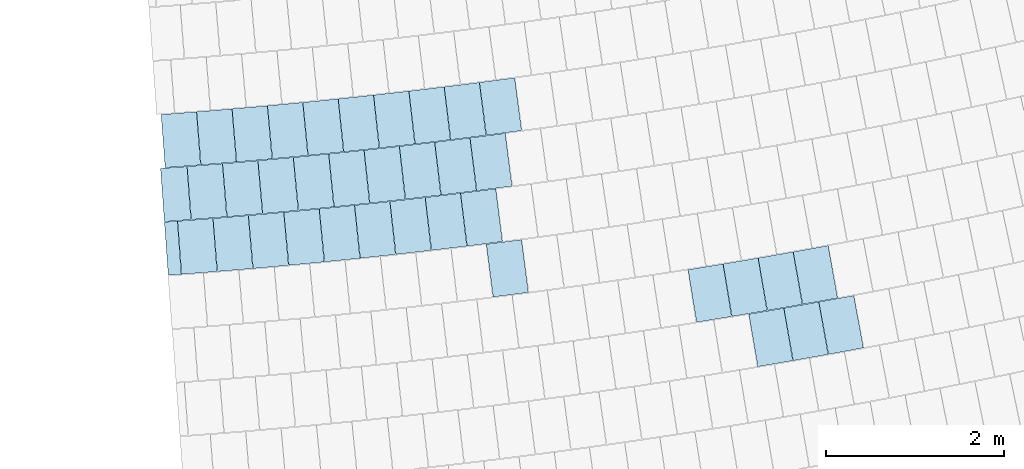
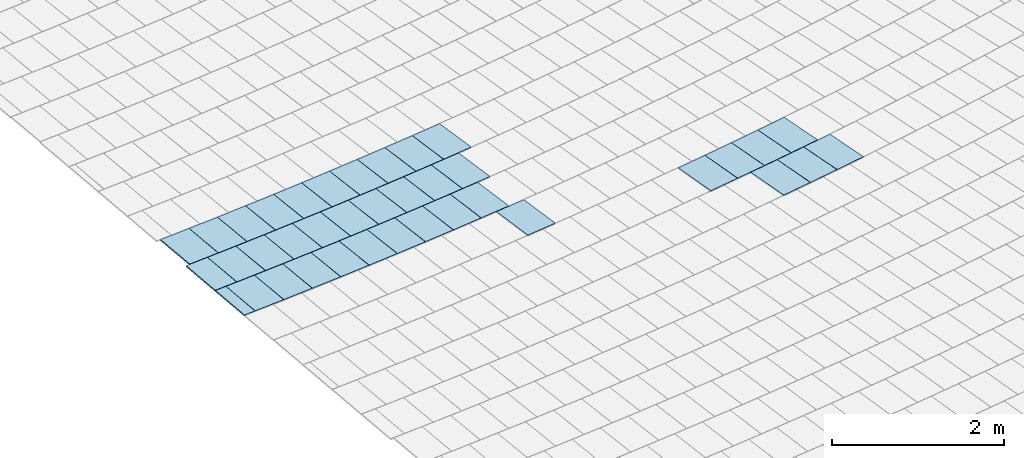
# One storey, part 43 of 438: 38 slabs.
"""IFC2X3 building model written with IfcOpenShell, lengths in millimetres."""

from ifc_helpers import new_model, entity, si_unit, converted_unit, derived_unit, direction, frame, origin, origin_2d_with_axis, place, context, subcontext, project, spatial, polyline, rectangle, outline, extrude, material, layer, layer_set, layer_usage, type_object, element, save


model = new_model("IFC2X3")

# Units and contexts
model_context = context("Model", 3, precision=0.01, world=origin(), true_north=direction((6.123031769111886e-17, 1.0)))
body_context = subcontext(model_context, "Body", "Model", "MODEL_VIEW")
ifc_project = project(units=[si_unit("LENGTHUNIT", "METRE", prefix="MILLI"), si_unit("AREAUNIT", "SQUARE_METRE"), si_unit("VOLUMEUNIT", "CUBIC_METRE"), converted_unit("PLANEANGLEUNIT", "DEGREE", entity("IfcRatioMeasure", 0.017453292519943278), si_unit("PLANEANGLEUNIT", "RADIAN"), dimensions=[0, 0, 0, 0, 0, 0, 0]), si_unit("MASSUNIT", "GRAM", prefix="KILO"), derived_unit("MASSDENSITYUNIT", [(si_unit("MASSUNIT", "GRAM", prefix="KILO"), 1), (si_unit("LENGTHUNIT", "METRE"), -3)]), derived_unit("MOMENTOFINERTIAUNIT", [(si_unit("LENGTHUNIT", "METRE"), 4)]), si_unit("TIMEUNIT", "SECOND"), si_unit("FREQUENCYUNIT", "HERTZ"), si_unit("THERMODYNAMICTEMPERATUREUNIT", "DEGREE_CELSIUS"), derived_unit("THERMALTRANSMITTANCEUNIT", [(si_unit("MASSUNIT", "GRAM", prefix="KILO"), 1), (si_unit("THERMODYNAMICTEMPERATUREUNIT", "KELVIN"), -1), (si_unit("TIMEUNIT", "SECOND"), -3)]), derived_unit("THERMALCONDUCTANCEUNIT", [(si_unit("MASSUNIT", "GRAM", prefix="KILO"), 1), (si_unit("LENGTHUNIT", "METRE"), 1), (si_unit("THERMODYNAMICTEMPERATUREUNIT", "KELVIN"), -1), (si_unit("TIMEUNIT", "SECOND"), -3)]), derived_unit("VOLUMETRICFLOWRATEUNIT", [(si_unit("LENGTHUNIT", "METRE"), 3), (si_unit("TIMEUNIT", "SECOND"), -1)]), derived_unit("MASSFLOWRATEUNIT", [(si_unit("MASSUNIT", "GRAM", prefix="KILO"), 1), (si_unit("TIMEUNIT", "SECOND"), -1)]), derived_unit("ROTATIONALFREQUENCYUNIT", [(si_unit("TIMEUNIT", "SECOND"), -1)]), si_unit("ELECTRICCURRENTUNIT", "AMPERE"), si_unit("ELECTRICVOLTAGEUNIT", "VOLT"), si_unit("POWERUNIT", "WATT"), converted_unit("FORCEUNIT", "KIP", entity("IfcRatioMeasure", 2.088543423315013e-05), si_unit("FORCEUNIT", "NEWTON"), dimensions=[1, 1, -2, 0, 0, 0, 0]), si_unit("ILLUMINANCEUNIT", "LUX"), si_unit("LUMINOUSFLUXUNIT", "LUMEN"), si_unit("LUMINOUSINTENSITYUNIT", "CANDELA"), derived_unit("USERDEFINED", [(si_unit("MASSUNIT", "GRAM", prefix="KILO"), -1), (si_unit("LENGTHUNIT", "METRE"), -2), (si_unit("TIMEUNIT", "SECOND"), 3), (si_unit("LUMINOUSFLUXUNIT", "LUMEN"), 1)]), derived_unit("USERDEFINED", [(si_unit("MASSUNIT", "GRAM", prefix="KILO"), 1), (si_unit("LENGTHUNIT", "METRE"), 3), (si_unit("TIMEUNIT", "SECOND"), -3), (si_unit("ELECTRICCURRENTUNIT", "AMPERE"), -2)]), derived_unit("USERDEFINED", [(si_unit("LENGTHUNIT", "METRE"), 2), (si_unit("TIMEUNIT", "SECOND"), -2)]), derived_unit("SOUNDPOWERUNIT", [(si_unit("MASSUNIT", "GRAM", prefix="KILO"), 1), (si_unit("LENGTHUNIT", "METRE"), 2), (si_unit("TIMEUNIT", "SECOND"), -3)]), derived_unit("SOUNDPRESSUREUNIT", [(si_unit("MASSUNIT", "GRAM", prefix="KILO"), 1), (si_unit("LENGTHUNIT", "METRE"), -1), (si_unit("TIMEUNIT", "SECOND"), -2)]), derived_unit("LINEARVELOCITYUNIT", [(si_unit("LENGTHUNIT", "METRE"), 1), (si_unit("TIMEUNIT", "SECOND"), -1)]), si_unit("PRESSUREUNIT", "PASCAL"), derived_unit("USERDEFINED", [(si_unit("LENGTHUNIT", "METRE"), -2), (si_unit("MASSUNIT", "GRAM", prefix="KILO"), 1), (si_unit("TIMEUNIT", "SECOND"), -2)]), derived_unit("LINEARFORCEUNIT", [(si_unit("MASSUNIT", "GRAM", prefix="KILO"), 1), (si_unit("LENGTHUNIT", "METRE"), 1), (si_unit("TIMEUNIT", "SECOND"), -2), (si_unit("LENGTHUNIT", "METRE"), -1)]), derived_unit("PLANARFORCEUNIT", [(si_unit("MASSUNIT", "GRAM", prefix="KILO"), 1), (si_unit("LENGTHUNIT", "METRE"), 1), (si_unit("TIMEUNIT", "SECOND"), -2), (si_unit("LENGTHUNIT", "METRE"), -2)]), derived_unit("SPECIFICHEATCAPACITYUNIT", [(si_unit("LENGTHUNIT", "METRE"), 2), (si_unit("TIMEUNIT", "SECOND"), -2), (si_unit("THERMODYNAMICTEMPERATUREUNIT", "KELVIN"), -1)]), derived_unit("VAPORPERMEABILITYUNIT", [(si_unit("TIMEUNIT", "SECOND"), 1), (si_unit("LENGTHUNIT", "METRE"), -1)]), derived_unit("DYNAMICVISCOSITYUNIT", [(si_unit("MASSUNIT", "GRAM", prefix="KILO"), 1), (si_unit("LENGTHUNIT", "METRE"), -1), (si_unit("TIMEUNIT", "SECOND"), -1)]), derived_unit("THERMALEXPANSIONCOEFFICIENTUNIT", [(si_unit("THERMODYNAMICTEMPERATUREUNIT", "KELVIN"), -1)])], contexts=[model_context])

# Site, building, storey
site_placement = place(None, frame((0.0, 0.0, 0.0), z_axis=(0.0, 0.0, 1.0), x_axis=(0.8191520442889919, 0.5735764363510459, 0.0)))
site = spatial("IfcSite", under=ifc_project, at=site_placement, Name="Default", CompositionType="ELEMENT")
building_placement = place(site_placement, origin())
building = spatial("IfcBuilding", under=site, at=building_placement, CompositionType="ELEMENT")
storey_placement = place(building_placement, origin())
storey = spatial("IfcBuildingStorey", under=building, at=storey_placement, Name="PLAN", CompositionType="ELEMENT", Elevation=0.0)

# Slabs
ifc_material = material(Name="Paint-01")
ifc_layer = layer(ifc_material, 20.00000000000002)
ifc_layer_set = layer_set([ifc_layer], Name="Floor:Slab-179:1000")
ifc_layer_usage = layer_usage(ifc_layer_set, "AXIS3", "POSITIVE", 0.0)
slab_type = type_object("IfcSlabType", Name="Floor:Slab-179:1000", PredefinedType="FLOOR", material=ifc_layer_set)
slab_1_placement = place(storey_placement, origin())
element("IfcSlab", 1, at=slab_1_placement, inside=storey, type_object=slab_type, material=ifc_layer_usage, Name="Floor:Slab-179:1000", ObjectType="Floor:Slab-179:1000", PredefinedType="FLOOR", context=body_context, shape_type="SweptSolid", body=[
    extrude(outline(polyline([(-299.999998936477, -200.00000294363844), (300.0000010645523, -200.00000294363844), (299.99999893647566, 200.00000294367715), (-300.0000010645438, 200.00000294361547), (-299.999998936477, -200.00000294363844)])), frame((-68898.74246700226, -130394.62740958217, 20.0), z_axis=(0.0, 0.0, -1.0), x_axis=(-0.416113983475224, -0.9093124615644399, 0.0)), (0.0, 0.0, 1.0), 20.00000000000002),
])
slab_2_placement = place(storey_placement, origin())
element("IfcSlab", 2, at=slab_2_placement, inside=storey, type_object=slab_type, material=ifc_layer_usage, Name="Floor:Slab-179:1000", ObjectType="Floor:Slab-179:1000", PredefinedType="FLOOR", context=body_context, shape_type="SweptSolid", body=[
    extrude(outline(polyline([(-299.99999893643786, -200.00000294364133), (300.00000106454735, -200.0000029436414), (299.99999893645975, 200.0000029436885), (-300.0000010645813, 200.00000294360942), (-299.99999893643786, -200.00000294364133)])), frame((-69263.57120675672, -130226.38438152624, 20.0), z_axis=(0.0, 0.0, -1.0), x_axis=(-0.42142637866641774, -0.9068626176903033, 0.0)), (0.0, 0.0, 1.0), 20.000000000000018),
])
slab_3_placement = place(storey_placement, origin())
element("IfcSlab", 3, at=slab_3_placement, inside=storey, type_object=slab_type, material=ifc_layer_usage, Name="Floor:Slab-179:1000", ObjectType="Floor:Slab-179:1000", PredefinedType="FLOOR", context=body_context, shape_type="SweptSolid", body=[
    extrude(outline(polyline([(-299.9999989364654, -200.00000294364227), (300.000001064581, -200.00000294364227), (299.99999893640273, 200.00000294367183), (-300.0000010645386, 200.00000294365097), (-299.9999989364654, -200.00000294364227)])), frame((-69627.40947500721, -130056.0099691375, 20.0), z_axis=(0.0, 0.0, -1.0), x_axis=(-0.4267243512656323, -0.9043817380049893, 0.0)), (0.0, 0.0, 1.0), 20.00000000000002),
])
slab_4_placement = place(storey_placement, origin())
element("IfcSlab", 4, at=slab_4_placement, inside=storey, type_object=slab_type, material=ifc_layer_usage, Name="Floor:Slab-179:1000", ObjectType="Floor:Slab-179:1000", PredefinedType="FLOOR", context=body_context, shape_type="SweptSolid", body=[
    extrude(outline(polyline([(-299.99999893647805, -200.00000294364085), (300.00000106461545, -200.00000294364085), (299.99999893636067, 200.0000029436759), (-300.0000010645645, 200.00000294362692), (-299.99999893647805, -200.00000294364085)])), frame((-68813.39507926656, -129768.07485715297, 20.0), z_axis=(0.0, 0.0, -1.0), x_axis=(-0.41855854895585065, -0.9081898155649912, 0.0)), (0.0, 0.0, 1.0), 20.00000000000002),
])
slab_5_placement = place(storey_placement, origin())
element("IfcSlab", 5, at=slab_5_placement, inside=storey, type_object=slab_type, material=ifc_layer_usage, Name="Floor:Slab-179:1000", ObjectType="Floor:Slab-179:1000", PredefinedType="FLOOR", context=body_context, shape_type="SweptSolid", body=[
    extrude(outline(polyline([(-299.9999989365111, -200.00000294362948), (300.0000010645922, -200.00000294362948), (299.99999893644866, 200.00000294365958), (-300.00000106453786, 200.0000029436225), (-299.9999989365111, -200.00000294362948)])), frame((-69903.52049724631, -129253.91783285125, 20.0), z_axis=(0.0, 0.0, -1.0), x_axis=(-0.43457331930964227, -0.9006364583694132, 0.0)), (0.0, 0.0, 1.0), 20.00000000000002),
])
slab_6_placement = place(storey_placement, origin())
element("IfcSlab", 6, at=slab_6_placement, inside=storey, type_object=slab_type, material=ifc_layer_usage, Name="Floor:Slab-179:1000", ObjectType="Floor:Slab-179:1000", PredefinedType="FLOOR", context=body_context, shape_type="SweptSolid", body=[
    extrude(outline(polyline([(-299.9999989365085, -200.00000294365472), (300.00000106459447, -200.00000294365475), (299.99999893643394, 200.0000029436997), (-300.00000106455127, 200.0000029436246), (-299.9999989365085, -200.00000294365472)])), frame((-69541.15904323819, -129427.44727390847, 20.0), z_axis=(0.0, 0.0, -1.0), x_axis=(-0.42924995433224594, -0.9031857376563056, 0.0)), (0.0, 0.0, 1.0), 20.00000000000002),
])
slab_7_placement = place(storey_placement, origin())
element("IfcSlab", 7, at=slab_7_placement, inside=storey, type_object=slab_type, material=ifc_layer_usage, Name="Floor:Slab-179:1000", ObjectType="Floor:Slab-179:1000", PredefinedType="FLOOR", context=body_context, shape_type="SweptSolid", body=[
    extrude(outline(polyline([(-299.99999893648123, -200.00000294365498), (300.0000010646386, -200.00000294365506), (299.9999989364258, 200.00000294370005), (-300.00000106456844, 200.0000029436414), (-299.99999893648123, -200.00000294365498)])), frame((-69177.77968422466, -129598.83493888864, 20.0), z_axis=(0.0, 0.0, -1.0), x_axis=(-0.42391163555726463, -0.9057035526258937, 0.0)), (0.0, 0.0, 1.0), 20.000000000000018),
])
slab_8_placement = place(storey_placement, origin())
element("IfcSlab", 8, at=slab_8_placement, inside=storey, type_object=slab_type, material=ifc_layer_usage, Name="Floor:Slab-179:1000", ObjectType="Floor:Slab-179:1000", PredefinedType="FLOOR", context=body_context, shape_type="SweptSolid", body=[
    extrude(outline(polyline([(-300.00000106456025, -200.00000294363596), (299.99999893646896, -200.00000294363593), (300.0000010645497, 200.0000029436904), (-299.9999989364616, 200.00000294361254), (-300.00000106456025, -200.00000294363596)])), frame((-71609.99930457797, -127718.77863192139, 20.0), z_axis=(0.0, 0.0, -1.0), x_axis=(-0.4637646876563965, -0.8859584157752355, 0.0)), (0.0, 0.0, 1.0), 20.00000000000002),
])
slab_9_placement = place(storey_placement, origin())
element("IfcSlab", 9, at=slab_9_placement, inside=storey, type_object=slab_type, material=ifc_layer_usage, Name="Floor:Slab-179:1000", ObjectType="Floor:Slab-179:1000", PredefinedType="FLOOR", context=body_context, shape_type="SweptSolid", body=[
    extrude(outline(polyline([(-300.0, -73.57357907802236), (300.0, -73.57357907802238), (300.0, 73.33642901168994), (-300.0, 73.81072914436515), (-300.0, -73.57357907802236)])), frame((-74562.82681701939, -125374.49733628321, 20.0), z_axis=(0.0, 0.0, -1.0), x_axis=(-0.5137478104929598, -0.8579412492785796, 0.0)), (0.0, 0.0, 1.0), 20.00000000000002),
])
slab_10_placement = place(storey_placement, origin())
element("IfcSlab", 10, at=slab_10_placement, inside=storey, type_object=slab_type, material=ifc_layer_usage, Name="Floor:Slab-179:1000", ObjectType="Floor:Slab-179:1000", PredefinedType="FLOOR", context=body_context, shape_type="SweptSolid", body=[
    extrude(outline(polyline([(-300.00000106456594, -200.00000294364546), (299.99999893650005, -200.0000029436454), (300.0000010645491, 200.00000294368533), (-299.9999989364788, 200.00000294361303), (-300.00000106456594, -200.00000294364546)])), frame((-73979.3843589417, -125718.24233254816, 20.0), z_axis=(0.0, 0.0, -1.0), x_axis=(-0.5033991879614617, -0.8640539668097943, 0.0)), (0.0, 0.0, 1.0), 20.000000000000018),
])
slab_11_placement = place(storey_placement, origin())
element("IfcSlab", 11, at=slab_11_placement, inside=storey, type_object=slab_type, material=ifc_layer_usage, Name="Floor:Slab-179:1000", ObjectType="Floor:Slab-179:1000", PredefinedType="FLOOR", context=body_context, shape_type="SweptSolid", body=[
    extrude(outline(polyline([(-300.0000010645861, -200.00000294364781), (299.99999893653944, -200.00000294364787), (300.00000106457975, 200.00000294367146), (-299.99999893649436, 200.00000294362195), (-300.0000010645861, -200.00000294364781)])), frame((-73631.60034340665, -125919.46455726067, 20.0), z_axis=(0.0, 0.0, -1.0), x_axis=(-0.49819751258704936, -0.8670635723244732, 0.0)), (0.0, 0.0, 1.0), 20.00000000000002),
])
slab_12_placement = place(storey_placement, origin())
element("IfcSlab", 12, at=slab_12_placement, inside=storey, type_object=slab_type, material=ifc_layer_usage, Name="Floor:Slab-179:1000", ObjectType="Floor:Slab-179:1000", PredefinedType="FLOOR", context=body_context, shape_type="SweptSolid", body=[
    extrude(outline(polyline([(-300.0000010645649, -200.00000294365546), (299.9999989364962, -200.00000294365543), (300.0000010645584, 200.00000294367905), (-299.99999893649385, 200.00000294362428), (-300.0000010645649, -200.00000294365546)])), frame((-73282.61335073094, -126118.59311905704, 20.0), z_axis=(0.0, 0.0, -1.0), x_axis=(-0.4929778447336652, -0.8700418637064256, 0.0)), (0.0, 0.0, 1.0), 20.00000000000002),
])
slab_13_placement = place(storey_placement, origin())
element("IfcSlab", 13, at=slab_13_placement, inside=storey, type_object=slab_type, material=ifc_layer_usage, Name="Floor:Slab-179:1000", ObjectType="Floor:Slab-179:1000", PredefinedType="FLOOR", context=body_context, shape_type="SweptSolid", body=[
    extrude(outline(polyline([(-300.00000106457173, -200.00000294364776), (299.9999989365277, -200.00000294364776), (300.0000010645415, 200.00000294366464), (-299.99999893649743, 200.00000294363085), (-300.00000106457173, -200.00000294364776)])), frame((-72932.43598463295, -126315.62082637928, 20.0), z_axis=(0.0, 0.0, -1.0), x_axis=(-0.48774037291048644, -0.8729887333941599, 0.0)), (0.0, 0.0, 1.0), 20.00000000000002),
])
slab_14_placement = place(storey_placement, origin())
element("IfcSlab", 14, at=slab_14_placement, inside=storey, type_object=slab_type, material=ifc_layer_usage, Name="Floor:Slab-179:1000", ObjectType="Floor:Slab-179:1000", PredefinedType="FLOOR", context=body_context, shape_type="SweptSolid", body=[
    extrude(outline(polyline([(-300.000001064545, -200.00000294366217), (299.99999893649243, -200.00000294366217), (300.00000106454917, 200.00000294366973), (-299.9999989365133, 200.00000294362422), (-300.000001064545, -200.00000294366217)])), frame((-72581.08089182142, -126510.54056354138, 20.0), z_axis=(0.0, 0.0, -1.0), x_axis=(-0.48248528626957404, -0.8759040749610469, 0.0)), (0.0, 0.0, 1.0), 20.000000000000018),
])
slab_15_placement = place(storey_placement, origin())
element("IfcSlab", 15, at=slab_15_placement, inside=storey, type_object=slab_type, material=ifc_layer_usage, Name="Floor:Slab-179:1000", ObjectType="Floor:Slab-179:1000", PredefinedType="FLOOR", context=body_context, shape_type="SweptSolid", body=[
    extrude(outline(polyline([(-300.0000010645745, -200.00000294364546), (299.99999893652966, -200.00000294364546), (300.0000010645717, 200.00000294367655), (-299.99999893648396, 200.00000294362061), (-300.0000010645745, -200.00000294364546)])), frame((-72228.560761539, -126703.34529098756, 20.0), z_axis=(0.0, 0.0, -1.0), x_axis=(-0.47721277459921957, -0.8787877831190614, 0.0)), (0.0, 0.0, 1.0), 20.00000000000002),
])
slab_16_placement = place(storey_placement, origin())
element("IfcSlab", 16, at=slab_16_placement, inside=storey, type_object=slab_type, material=ifc_layer_usage, Name="Floor:Slab-179:1000", ObjectType="Floor:Slab-179:1000", PredefinedType="FLOOR", context=body_context, shape_type="SweptSolid", body=[
    extrude(outline(polyline([(-300.0000010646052, -200.00000294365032), (299.9999989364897, -200.00000294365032), (300.0000010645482, 200.00000294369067), (-299.99999893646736, 200.0000029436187), (-300.0000010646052, -200.00000294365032)])), frame((-71874.88832510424, -126894.02804554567, 20.0), z_axis=(0.0, 0.0, -1.0), x_axis=(-0.4719230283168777, -0.8816397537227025, 0.0)), (0.0, 0.0, 1.0), 20.00000000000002),
])
slab_17_placement = place(storey_placement, origin())
element("IfcSlab", 17, at=slab_17_placement, inside=storey, type_object=slab_type, material=ifc_layer_usage, Name="Floor:Slab-179:1000", ObjectType="Floor:Slab-179:1000", PredefinedType="FLOOR", context=body_context, shape_type="SweptSolid", body=[
    extrude(outline(polyline([(-300.00000106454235, -200.00000294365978), (299.9999989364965, -200.00000294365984), (300.00000106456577, 200.00000294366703), (-299.99999893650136, 200.00000294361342), (-300.00000106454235, -200.00000294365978)])), frame((-71520.07635545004, -127082.58194067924, 20.0), z_axis=(0.0, 0.0, -1.0), x_axis=(-0.4666162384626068, -0.8844598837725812, 0.0)), (0.0, 0.0, 1.0), 20.000000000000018),
])
slab_18_placement = place(storey_placement, origin())
element("IfcSlab", 18, at=slab_18_placement, inside=storey, type_object=slab_type, material=ifc_layer_usage, Name="Floor:Slab-179:1000", ObjectType="Floor:Slab-179:1000", PredefinedType="FLOOR", context=body_context, shape_type="SweptSolid", body=[
    extrude(outline(polyline([(-300.00000106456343, -200.00000294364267), (299.99999893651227, -200.00000294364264), (300.00000106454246, 200.0000029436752), (-299.9999989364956, 200.00000294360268), (-300.00000106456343, -200.00000294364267)])), frame((-74325.95283706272, -125514.93371209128, 20.0), z_axis=(0.0, 0.0, -1.0), x_axis=(-0.5085826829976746, -0.8610131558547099, 0.0)), (0.0, 0.0, 1.0), 20.000000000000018),
])
slab_19_placement = place(storey_placement, origin())
element("IfcSlab", 19, at=slab_19_placement, inside=storey, type_object=slab_type, material=ifc_layer_usage, Name="Floor:Slab-179:1000", ObjectType="Floor:Slab-179:1000", PredefinedType="FLOOR", context=body_context, shape_type="SweptSolid", body=[
    extrude(outline(polyline([(-300.000000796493, -149.61412495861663), (299.99999920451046, -149.61412495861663), (300.0000007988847, 150.06342650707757), (-299.9999992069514, 149.16482341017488), (-300.000000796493, -149.61412495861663)])), frame((-74187.03334486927, -124894.01494399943, 20.0), z_axis=(0.0, 0.0, -1.0), x_axis=(-0.5117833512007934, -0.8591145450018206, 0.0)), (0.0, 0.0, 1.0), 20.00000000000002),
])
slab_20_placement = place(storey_placement, origin())
element("IfcSlab", 20, at=slab_20_placement, inside=storey, type_object=slab_type, material=ifc_layer_usage, Name="Floor:Slab-179:1000", ObjectType="Floor:Slab-179:1000", PredefinedType="FLOOR", context=body_context, shape_type="SweptSolid", body=[
    extrude(outline(polyline([(-300.0000010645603, -200.00000294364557), (299.99999893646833, -200.00000294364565), (300.0000010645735, 200.000002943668), (-299.99999893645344, 200.00000294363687), (-300.0000010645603, -200.00000294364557)])), frame((-73884.49126005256, -125072.82410162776, 20.0), z_axis=(0.0, 0.0, -1.0), x_axis=(-0.5065636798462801, -0.862202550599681, 0.0)), (0.0, 0.0, 1.0), 20.00000000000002),
])
slab_21_placement = place(storey_placement, origin())
element("IfcSlab", 21, at=slab_21_placement, inside=storey, type_object=slab_type, material=ifc_layer_usage, Name="Floor:Slab-179:1000", ObjectType="Floor:Slab-179:1000", PredefinedType="FLOOR", context=body_context, shape_type="SweptSolid", body=[
    extrude(rectangle(XDim=599.999296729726, YDim=399.99953704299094, at=origin_2d_with_axis()), frame((-73537.18280478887, -125275.81365896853, 20.0), z_axis=(0.0, 0.0, -1.0), x_axis=(-0.5000000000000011, -0.866025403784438, 0.0)), (0.0, 0.0, 1.0), 20.00000000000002),
])
slab_22_placement = place(storey_placement, origin())
element("IfcSlab", 22, at=slab_22_placement, inside=storey, type_object=slab_type, material=ifc_layer_usage, Name="Floor:Slab-179:1000", ObjectType="Floor:Slab-179:1000", PredefinedType="FLOOR", context=body_context, shape_type="SweptSolid", body=[
    extrude(outline(polyline([(-300.0000010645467, -200.0000029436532), (299.99999893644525, -200.0000029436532), (300.0000010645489, 200.00000294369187), (-299.99999893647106, 200.00000294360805), (-300.0000010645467, -200.0000029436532)])), frame((-73189.14202621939, -125475.70494949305, 20.0), z_axis=(0.0, 0.0, -1.0), x_axis=(-0.4960686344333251, -0.8682833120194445, 0.0)), (0.0, 0.0, 1.0), 20.00000000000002),
])
slab_23_placement = place(storey_placement, origin())
element("IfcSlab", 23, at=slab_23_placement, inside=storey, type_object=slab_type, material=ifc_layer_usage, Name="Floor:Slab-179:1000", ObjectType="Floor:Slab-179:1000", PredefinedType="FLOOR", context=body_context, shape_type="SweptSolid", body=[
    extrude(outline(polyline([(-300.0000010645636, -200.0000029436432), (299.9999989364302, -200.00000294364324), (300.0000010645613, 200.00000294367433), (-299.9999989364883, 200.00000294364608), (-300.0000010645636, -200.0000029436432)])), frame((-72839.6476934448, -125673.9751682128, 20.0), z_axis=(0.0, 0.0, -1.0), x_axis=(-0.49079364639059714, -0.8712758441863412, 0.0)), (0.0, 0.0, 1.0), 20.00000000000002),
])
slab_24_placement = place(storey_placement, origin())
element("IfcSlab", 24, at=slab_24_placement, inside=storey, type_object=slab_type, material=ifc_layer_usage, Name="Floor:Slab-179:1000", ObjectType="Floor:Slab-179:1000", PredefinedType="FLOOR", context=body_context, shape_type="SweptSolid", body=[
    extrude(outline(polyline([(-300.0000010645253, -200.00000294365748), (299.99999893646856, -200.00000294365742), (300.0000010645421, 200.00000294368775), (-299.99999893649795, 200.00000294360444), (-300.0000010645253, -200.00000294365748)])), frame((-72488.95734149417, -125870.12216747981, 20.0), z_axis=(0.0, 0.0, -1.0), x_axis=(-0.4855006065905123, -0.8742363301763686, 0.0)), (0.0, 0.0, 1.0), 20.00000000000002),
])
slab_25_placement = place(storey_placement, origin())
element("IfcSlab", 25, at=slab_25_placement, inside=storey, type_object=slab_type, material=ifc_layer_usage, Name="Floor:Slab-179:1000", ObjectType="Floor:Slab-179:1000", PredefinedType="FLOOR", context=body_context, shape_type="SweptSolid", body=[
    extrude(outline(polyline([(-300.0000010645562, -200.00000294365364), (299.9999989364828, -200.0000029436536), (300.0000010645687, 200.0000029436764), (-299.99999893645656, 200.00000294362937), (-300.0000010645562, -200.00000294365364)])), frame((-72137.08386902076, -126064.13873286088, 20.0), z_axis=(0.0, 0.0, -1.0), x_axis=(-0.4801897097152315, -0.8771646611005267, 0.0)), (0.0, 0.0, 1.0), 20.00000000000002),
])
slab_26_placement = place(storey_placement, origin())
element("IfcSlab", 26, at=slab_26_placement, inside=storey, type_object=slab_type, material=ifc_layer_usage, Name="Floor:Slab-179:1000", ObjectType="Floor:Slab-179:1000", PredefinedType="FLOOR", context=body_context, shape_type="SweptSolid", body=[
    extrude(outline(polyline([(-300.0000010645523, -200.0000029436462), (299.9999989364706, -200.00000294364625), (300.0000010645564, 200.00000294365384), (-299.9999989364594, 200.00000294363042), (-300.0000010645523, -200.0000029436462)])), frame((-71784.040218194, -126256.01772828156, 20.0), z_axis=(0.0, 0.0, -1.0), x_axis=(-0.4748611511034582, -0.8800607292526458, 0.0)), (0.0, 0.0, 1.0), 20.00000000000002),
])
slab_27_placement = place(storey_placement, origin())
element("IfcSlab", 27, at=slab_27_placement, inside=storey, type_object=slab_type, material=ifc_layer_usage, Name="Floor:Slab-179:1000", ObjectType="Floor:Slab-179:1000", PredefinedType="FLOOR", context=body_context, shape_type="SweptSolid", body=[
    extrude(outline(polyline([(-300.00000106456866, -200.00000294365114), (299.99999893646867, -200.00000294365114), (300.00000106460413, 200.00000294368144), (-299.9999989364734, 200.00000294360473), (-300.00000106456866, -200.00000294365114)])), frame((-71074.49436488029, -126633.3348583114, 20.0), z_axis=(0.0, 0.0, -1.0), x_axis=(-0.4641518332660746, -0.885755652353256, 0.0)), (0.0, 0.0, 1.0), 20.00000000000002),
])
slab_28_placement = place(storey_placement, origin())
element("IfcSlab", 28, at=slab_28_placement, inside=storey, type_object=slab_type, material=ifc_layer_usage, Name="Floor:Slab-179:1000", ObjectType="Floor:Slab-179:1000", PredefinedType="FLOOR", context=body_context, shape_type="SweptSolid", body=[
    extrude(outline(polyline([(-300.00000106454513, -200.00000294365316), (299.9999989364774, -200.00000294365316), (300.0000010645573, 200.0000029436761), (-299.9999989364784, 200.00000294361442), (-300.00000106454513, -200.00000294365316)])), frame((-71429.83937422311, -126445.75209628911, 20.0), z_axis=(0.0, 0.0, -1.0), x_axis=(-0.46951512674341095, -0.8829244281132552, 0.0)), (0.0, 0.0, 1.0), 20.00000000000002),
])
slab_29_placement = place(storey_placement, origin())
element("IfcSlab", 29, at=slab_29_placement, inside=storey, type_object=slab_type, material=ifc_layer_usage, Name="Floor:Slab-179:1000", ObjectType="Floor:Slab-179:1000", PredefinedType="FLOOR", context=body_context, shape_type="SweptSolid", body=[
    extrude(outline(polyline([(-300.00000106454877, -200.0000029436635), (299.99999893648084, -200.00000294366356), (300.00000106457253, 200.00000294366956), (-299.9999989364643, 200.0000029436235), (-300.00000106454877, -200.0000029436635)])), frame((-73789.15618595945, -124426.61349896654, 20.0), z_axis=(0.0, 0.0, -1.0), x_axis=(-0.5097797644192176, -0.8603049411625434, 0.0)), (0.0, 0.0, 1.0), 20.000000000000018),
])
slab_30_placement = place(storey_placement, origin())
element("IfcSlab", 30, at=slab_30_placement, inside=storey, type_object=slab_type, material=ifc_layer_usage, Name="Floor:Slab-179:1000", ObjectType="Floor:Slab-179:1000", PredefinedType="FLOOR", context=body_context, shape_type="SweptSolid", body=[
    extrude(outline(polyline([(-300.00000106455, -200.00000294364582), (299.99999893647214, -200.00000294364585), (300.00000106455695, 200.00000294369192), (-299.99999893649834, 200.00000294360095), (-300.00000106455, -200.00000294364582)])), frame((-73442.83077346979, -124630.40158966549, 20.0), z_axis=(0.0, 0.0, -1.0), x_axis=(-0.5045044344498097, -0.8634091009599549, 0.0)), (0.0, 0.0, 1.0), 20.00000000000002),
])
slab_31_placement = place(storey_placement, origin())
element("IfcSlab", 31, at=slab_31_placement, inside=storey, type_object=slab_type, material=ifc_layer_usage, Name="Floor:Slab-179:1000", ObjectType="Floor:Slab-179:1000", PredefinedType="FLOOR", context=body_context, shape_type="SweptSolid", body=[
    extrude(rectangle(XDim=599.999750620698, YDim=399.99983963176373, at=origin_2d_with_axis()), frame((-73095.41019845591, -124831.7713843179, 20.0), z_axis=(0.0, 0.0, -1.0), x_axis=(-0.4999999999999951, -0.8660254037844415, 0.0)), (0.0, 0.0, 1.0), 20.00000000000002),
])
slab_32_placement = place(storey_placement, origin())
element("IfcSlab", 32, at=slab_32_placement, inside=storey, type_object=slab_type, material=ifc_layer_usage, Name="Floor:Slab-179:1000", ObjectType="Floor:Slab-179:1000", PredefinedType="FLOOR", context=body_context, shape_type="SweptSolid", body=[
    extrude(outline(polyline([(-300.0000010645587, -200.0000029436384), (299.99999893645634, -200.0000029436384), (300.00000106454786, 200.00000294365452), (-299.9999989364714, 200.00000294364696), (-300.0000010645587, -200.0000029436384)])), frame((-72746.47037565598, -125031.59936614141, 20.0), z_axis=(0.0, 0.0, -1.0), x_axis=(-0.4938972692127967, -0.8695202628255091, 0.0)), (0.0, 0.0, 1.0), 20.00000000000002),
])
slab_33_placement = place(storey_placement, origin())
element("IfcSlab", 33, at=slab_33_placement, inside=storey, type_object=slab_type, material=ifc_layer_usage, Name="Floor:Slab-179:1000", ObjectType="Floor:Slab-179:1000", PredefinedType="FLOOR", context=body_context, shape_type="SweptSolid", body=[
    extrude(outline(polyline([(-300.0000010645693, -200.00000294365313), (299.99999893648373, -200.0000029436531), (300.0000010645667, 200.00000294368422), (-299.9999989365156, 200.00000294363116), (-300.0000010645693, -200.00000294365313)])), frame((-72045.2509205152, -125424.24263327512, 20.0), z_axis=(0.0, 0.0, -1.0), x_axis=(-0.4832160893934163, -0.8755011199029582, 0.0)), (0.0, 0.0, 1.0), 20.00000000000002),
])
slab_34_placement = place(storey_placement, origin())
element("IfcSlab", 34, at=slab_34_placement, inside=storey, type_object=slab_type, material=ifc_layer_usage, Name="Floor:Slab-179:1000", ObjectType="Floor:Slab-179:1000", PredefinedType="FLOOR", context=body_context, shape_type="SweptSolid", body=[
    extrude(outline(polyline([(-300.0000010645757, -200.0000029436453), (299.9999989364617, -200.0000029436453), (300.0000010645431, 200.00000294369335), (-299.99999893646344, 200.00000294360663), (-300.0000010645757, -200.0000029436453)])), frame((-72396.4614794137, -125228.99402107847, 20.0), z_axis=(0.0, 0.0, -1.0), x_axis=(-0.4885658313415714, -0.8725270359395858, 0.0)), (0.0, 0.0, 1.0), 20.00000000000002),
])
slab_35_placement = place(storey_placement, origin())
element("IfcSlab", 35, at=slab_35_placement, inside=storey, type_object=slab_type, material=ifc_layer_usage, Name="Floor:Slab-179:1000", ObjectType="Floor:Slab-179:1000", PredefinedType="FLOOR", context=body_context, shape_type="SweptSolid", body=[
    extrude(outline(polyline([(-300.0000010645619, -200.0000029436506), (299.999998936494, -200.00000294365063), (300.00000106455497, 200.0000029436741), (-299.9999989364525, 200.00000294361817), (-300.0000010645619, -200.0000029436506)])), frame((-71692.85185703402, -125617.33788775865, 20.0), z_axis=(0.0, 0.0, -1.0), x_axis=(-0.47784824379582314, -0.8784424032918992, 0.0)), (0.0, 0.0, 1.0), 20.00000000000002),
])
slab_36_placement = place(storey_placement, origin())
element("IfcSlab", 36, at=slab_36_placement, inside=storey, type_object=slab_type, material=ifc_layer_usage, Name="Floor:Slab-179:1000", ObjectType="Floor:Slab-179:1000", PredefinedType="FLOOR", context=body_context, shape_type="SweptSolid", body=[
    extrude(outline(polyline([(-300.0000010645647, -200.0000029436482), (299.99999893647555, -200.0000029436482), (300.00000106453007, 200.00000294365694), (-299.99999893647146, 200.00000294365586), (-300.0000010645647, -200.0000029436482)])), frame((-71339.27749157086, -125808.27255023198, 20.0), z_axis=(0.0, 0.0, -1.0), x_axis=(-0.47246249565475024, -0.8813507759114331, 0.0)), (0.0, 0.0, 1.0), 20.00000000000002),
])
slab_37_placement = place(storey_placement, origin())
element("IfcSlab", 37, at=slab_37_placement, inside=storey, type_object=slab_type, material=ifc_layer_usage, Name="Floor:Slab-179:1000", ObjectType="Floor:Slab-179:1000", PredefinedType="FLOOR", context=body_context, shape_type="SweptSolid", body=[
    extrude(outline(polyline([(-300.000001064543, -200.000002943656), (299.99999893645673, -200.000002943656), (300.000001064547, 200.0000029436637), (-299.9999989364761, 200.00000294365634), (-300.000001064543, -200.000002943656)])), frame((-70628.65588476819, -126183.63156695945, 20.0), z_axis=(0.0, 0.0, -1.0), x_axis=(-0.46163809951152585, -0.8870683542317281, 0.0)), (0.0, 0.0, 1.0), 20.000000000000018),
])
slab_38_placement = place(storey_placement, origin())
element("IfcSlab", 38, at=slab_38_placement, inside=storey, type_object=slab_type, material=ifc_layer_usage, Name="Floor:Slab-179:1000", ObjectType="Floor:Slab-179:1000", PredefinedType="FLOOR", context=body_context, shape_type="SweptSolid", body=[
    extrude(outline(polyline([(-300.0000010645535, -200.00000294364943), (299.9999989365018, -200.00000294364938), (300.0000010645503, 200.0000029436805), (-299.9999989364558, 200.0000029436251), (-300.0000010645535, -200.00000294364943)])), frame((-70984.54107075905, -125997.0394673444, 20.0), z_axis=(0.0, 0.0, -1.0), x_axis=(-0.4670590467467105, -0.884226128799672, 0.0)), (0.0, 0.0, 1.0), 20.00000000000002),
])

save(model, "model.ifc")
